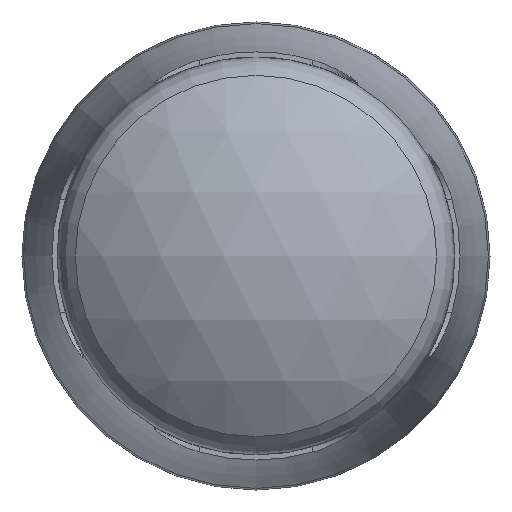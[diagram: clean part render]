
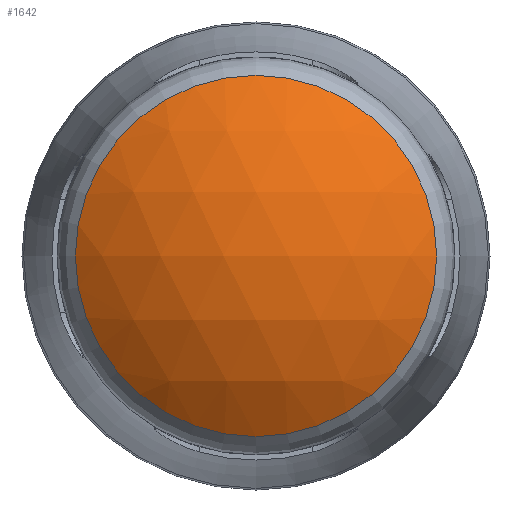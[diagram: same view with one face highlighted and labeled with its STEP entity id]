
A CAD part, left-side view. The second image highlights one B-rep face of the part: STEP entity #1642.
In plain terms, the highlighted spherical face has radius 36.73 mm.
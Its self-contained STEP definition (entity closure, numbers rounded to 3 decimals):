
#14=SPHERICAL_SURFACE('',#1819,36.73);
#202=FACE_OUTER_BOUND('',#298,.T.);
#298=EDGE_LOOP('',(#1188,#1189));
#597=CIRCLE('',#1816,22.385);
#598=CIRCLE('',#1817,22.385);
#713=VERTEX_POINT('',#2907);
#714=VERTEX_POINT('',#2909);
#893=EDGE_CURVE('',#713,#714,#597,.T.);
#894=EDGE_CURVE('',#714,#713,#598,.T.);
#1188=ORIENTED_EDGE('',*,*,#894,.F.);
#1189=ORIENTED_EDGE('',*,*,#893,.F.);
#1642=ADVANCED_FACE('',(#202),#14,.T.);
#1816=AXIS2_PLACEMENT_3D('',#2910,#2118,#2119);
#1817=AXIS2_PLACEMENT_3D('',#2911,#2120,#2121);
#1819=AXIS2_PLACEMENT_3D('',#2913,#2124,#2125);
#2118=DIRECTION('center_axis',(1.,0.,0.));
#2119=DIRECTION('ref_axis',(0.,-1.,0.));
#2120=DIRECTION('center_axis',(1.,0.,0.));
#2121=DIRECTION('ref_axis',(0.,-1.,0.));
#2124=DIRECTION('center_axis',(0.,0.,1.));
#2125=DIRECTION('ref_axis',(-1.,-0.001,0.));
#2907=CARTESIAN_POINT('',(7.609,0.,22.385));
#2909=CARTESIAN_POINT('',(7.609,22.385,0.));
#2910=CARTESIAN_POINT('Origin',(7.609,0.,0.));
#2911=CARTESIAN_POINT('Origin',(7.609,0.,0.));
#2913=CARTESIAN_POINT('Origin',(36.73,0.,0.));
